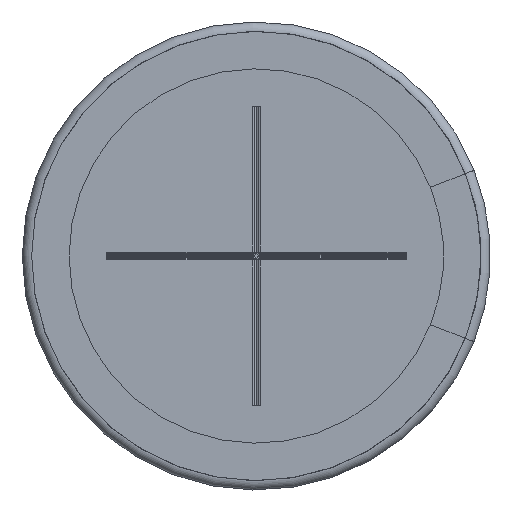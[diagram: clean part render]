
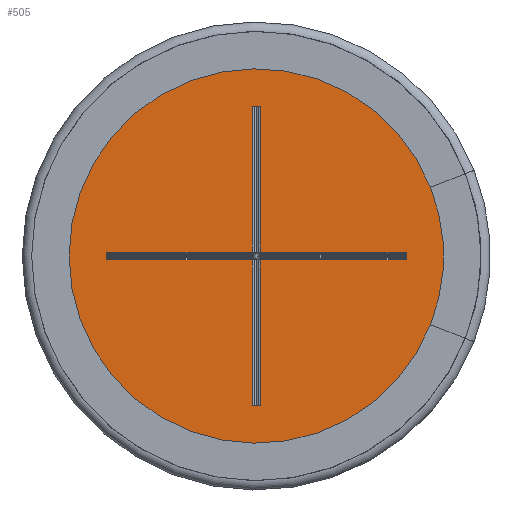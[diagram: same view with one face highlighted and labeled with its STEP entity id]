
A CAD part, front view. The second image highlights one B-rep face of the part: STEP entity #505.
In plain terms, the highlighted planar face has unit normal (0, -1, 0).
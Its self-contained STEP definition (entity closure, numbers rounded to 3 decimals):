
#88=FACE_BOUND('',#720,.T.);
#89=FACE_BOUND('',#721,.T.);
#505=ADVANCED_FACE('',(#88,#89),#589,.T.);
#589=PLANE('',#2054);
#720=EDGE_LOOP('',(#1124));
#721=EDGE_LOOP('',(#1125,#1126,#1127,#1128,#1129,#1130,#1131,#1132,#1133,
#1134,#1135,#1136));
#832=LINE('',#2916,#928);
#833=LINE('',#2919,#929);
#834=LINE('',#2921,#930);
#835=LINE('',#2923,#931);
#836=LINE('',#2925,#932);
#837=LINE('',#2927,#933);
#838=LINE('',#2929,#934);
#839=LINE('',#2931,#935);
#840=LINE('',#2933,#936);
#841=LINE('',#2935,#937);
#842=LINE('',#2937,#938);
#843=LINE('',#2939,#939);
#928=VECTOR('',#2373,1.);
#929=VECTOR('',#2374,1.);
#930=VECTOR('',#2375,1.);
#931=VECTOR('',#2376,1.);
#932=VECTOR('',#2377,1.);
#933=VECTOR('',#2378,1.);
#934=VECTOR('',#2379,1.);
#935=VECTOR('',#2380,1.);
#936=VECTOR('',#2381,1.);
#937=VECTOR('',#2382,1.);
#938=VECTOR('',#2383,1.);
#939=VECTOR('',#2384,1.);
#1124=ORIENTED_EDGE('',*,*,#1686,.T.);
#1125=ORIENTED_EDGE('',*,*,#1687,.F.);
#1126=ORIENTED_EDGE('',*,*,#1688,.T.);
#1127=ORIENTED_EDGE('',*,*,#1689,.T.);
#1128=ORIENTED_EDGE('',*,*,#1690,.F.);
#1129=ORIENTED_EDGE('',*,*,#1691,.T.);
#1130=ORIENTED_EDGE('',*,*,#1692,.T.);
#1131=ORIENTED_EDGE('',*,*,#1693,.T.);
#1132=ORIENTED_EDGE('',*,*,#1694,.T.);
#1133=ORIENTED_EDGE('',*,*,#1695,.T.);
#1134=ORIENTED_EDGE('',*,*,#1696,.T.);
#1135=ORIENTED_EDGE('',*,*,#1697,.T.);
#1136=ORIENTED_EDGE('',*,*,#1698,.T.);
#1512=VERTEX_POINT('',#2915);
#1513=VERTEX_POINT('',#2917);
#1514=VERTEX_POINT('',#2918);
#1515=VERTEX_POINT('',#2920);
#1516=VERTEX_POINT('',#2922);
#1517=VERTEX_POINT('',#2924);
#1518=VERTEX_POINT('',#2926);
#1519=VERTEX_POINT('',#2928);
#1520=VERTEX_POINT('',#2930);
#1521=VERTEX_POINT('',#2932);
#1522=VERTEX_POINT('',#2934);
#1523=VERTEX_POINT('',#2936);
#1524=VERTEX_POINT('',#2938);
#1686=EDGE_CURVE('',#1512,#1512,#1900,.T.);
#1687=EDGE_CURVE('',#1513,#1514,#832,.T.);
#1688=EDGE_CURVE('',#1513,#1515,#833,.T.);
#1689=EDGE_CURVE('',#1515,#1516,#834,.T.);
#1690=EDGE_CURVE('',#1517,#1516,#835,.T.);
#1691=EDGE_CURVE('',#1517,#1518,#836,.T.);
#1692=EDGE_CURVE('',#1518,#1519,#837,.T.);
#1693=EDGE_CURVE('',#1519,#1520,#838,.T.);
#1694=EDGE_CURVE('',#1520,#1521,#839,.T.);
#1695=EDGE_CURVE('',#1521,#1522,#840,.T.);
#1696=EDGE_CURVE('',#1522,#1523,#841,.T.);
#1697=EDGE_CURVE('',#1523,#1524,#842,.T.);
#1698=EDGE_CURVE('',#1524,#1514,#843,.T.);
#1900=CIRCLE('',#2053,12.);
#2053=AXIS2_PLACEMENT_3D('',#2914,#2371,#2372);
#2054=AXIS2_PLACEMENT_3D('',#2940,#2385,#2386);
#2371=DIRECTION('',(0.,-1.,0.));
#2372=DIRECTION('',(0.,0.,-1.));
#2373=DIRECTION('',(-1.,0.,0.));
#2374=DIRECTION('',(0.,0.,-1.));
#2375=DIRECTION('',(1.,0.,0.));
#2376=DIRECTION('',(0.,0.,1.));
#2377=DIRECTION('',(-1.,0.,0.));
#2378=DIRECTION('',(0.,0.,-1.));
#2379=DIRECTION('',(-1.,0.,0.));
#2380=DIRECTION('',(0.,0.,1.));
#2381=DIRECTION('',(-1.,0.,0.));
#2382=DIRECTION('',(0.,0.,1.));
#2383=DIRECTION('',(1.,0.,0.));
#2384=DIRECTION('',(0.,0.,1.));
#2385=DIRECTION('',(0.,-1.,0.));
#2386=DIRECTION('',(0.,0.,-1.));
#2914=CARTESIAN_POINT('',(0.,0.1,0.));
#2915=CARTESIAN_POINT('',(0.,0.1,-12.));
#2916=CARTESIAN_POINT('',(0.15,0.1,8.));
#2917=CARTESIAN_POINT('',(0.212,0.1,8.));
#2918=CARTESIAN_POINT('',(-0.212,0.1,8.));
#2919=CARTESIAN_POINT('',(0.212,0.1,0.15));
#2920=CARTESIAN_POINT('',(0.212,0.1,0.212));
#2921=CARTESIAN_POINT('',(8.,0.1,0.212));
#2922=CARTESIAN_POINT('',(8.,0.1,0.212));
#2923=CARTESIAN_POINT('',(8.,0.1,-0.15));
#2924=CARTESIAN_POINT('',(8.,0.1,-0.212));
#2925=CARTESIAN_POINT('',(0.15,0.1,-0.212));
#2926=CARTESIAN_POINT('',(0.212,0.1,-0.212));
#2927=CARTESIAN_POINT('',(0.212,0.1,-8.));
#2928=CARTESIAN_POINT('',(0.212,0.1,-8.));
#2929=CARTESIAN_POINT('',(0.15,0.1,-8.));
#2930=CARTESIAN_POINT('',(-0.212,0.1,-8.));
#2931=CARTESIAN_POINT('',(-0.212,0.1,-0.15));
#2932=CARTESIAN_POINT('',(-0.212,0.1,-0.212));
#2933=CARTESIAN_POINT('',(-8.,0.1,-0.212));
#2934=CARTESIAN_POINT('',(-8.,0.1,-0.212));
#2935=CARTESIAN_POINT('',(-8.,0.1,-0.15));
#2936=CARTESIAN_POINT('',(-8.,0.1,0.212));
#2937=CARTESIAN_POINT('',(-0.15,0.1,0.212));
#2938=CARTESIAN_POINT('',(-0.212,0.1,0.212));
#2939=CARTESIAN_POINT('',(-0.212,0.1,8.));
#2940=CARTESIAN_POINT('',(0.,0.1,0.));
